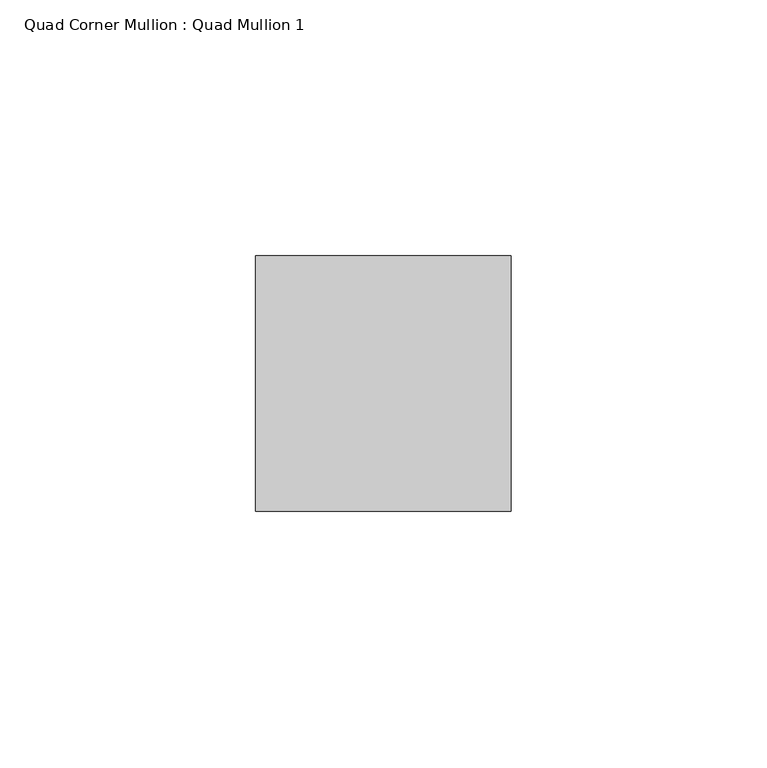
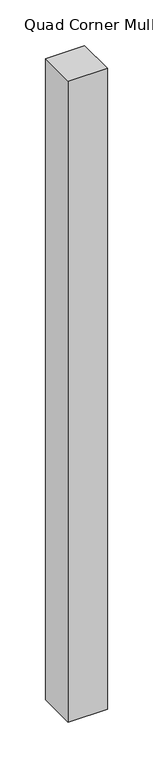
"""IFC4 building model written with IfcOpenShell, lengths in millimetres: member geometry, Quad Corner Mullion : Quad Mullion 1."""

from ifc_helpers import new_model, si_unit, frame, origin, place, context, project, spatial, polyline, outline, extrude, source, transform, mapped, element, save


def quad_corner_mullion_quad_mullion_1_bbb7864e(model_context):
    return source(origin(), model_context, "Body", "SweptSolid", [
        extrude(outline(polyline([(25.0, -25.0), (-25.0, -25.0), (-25.0, 25.0), (25.0, 25.0), (25.0, -25.0)])), frame((0.0, 0.0, -860.0), z_axis=(0.0, 0.0, 1.0), x_axis=(1.0, 0.0, 0.0)), (0.0, 0.0, 1.0), 860.0),
    ])


if __name__ == "__main__":
    model = new_model("IFC4")
    model_context = context("Model", 3, world=origin())
    ifc_project = project(units=[si_unit("LENGTHUNIT", "METRE", prefix="MILLI")], contexts=[model_context])
    site = spatial("IfcSite", under=ifc_project)
    building = spatial("IfcBuilding", under=site)
    placement = place(None, origin())
    quad_corner_mullion_quad_mullion_1_shape = quad_corner_mullion_quad_mullion_1_bbb7864e(model_context)
    element("IfcMember", 1, ObjectType="Quad Corner Mullion : Quad Mullion 1", at=placement, inside=building, context=model_context, shape_type="MappedRepresentation", body=[
        mapped(quad_corner_mullion_quad_mullion_1_shape, transform((0.0, 0.0, 0.0), x_axis=(1.0, 0.0, 0.0), y_axis=(0.0, 1.0, 0.0), z_axis=(0.0, 0.0, 1.0))),
    ])
    save(model, "model.ifc")
